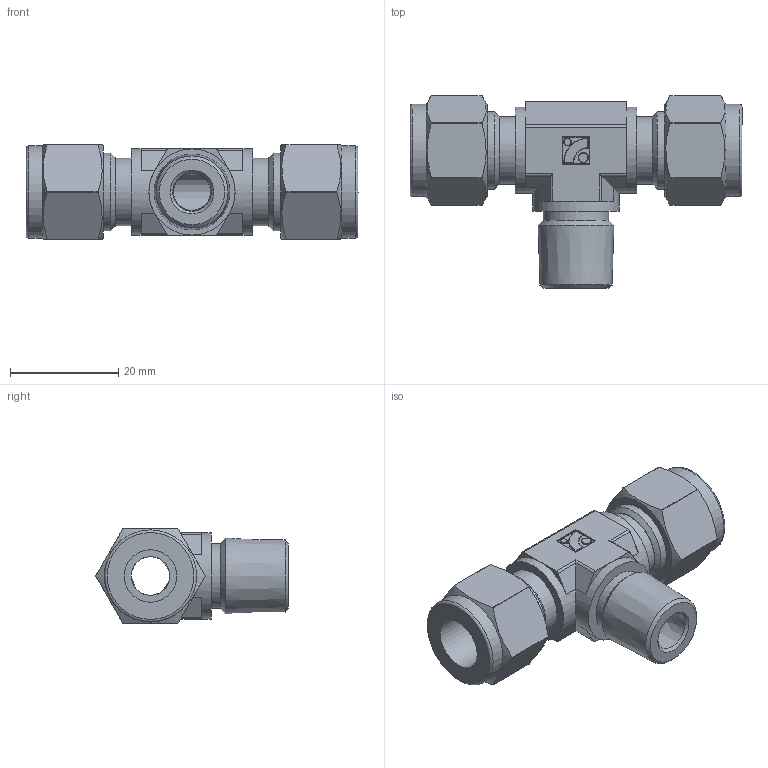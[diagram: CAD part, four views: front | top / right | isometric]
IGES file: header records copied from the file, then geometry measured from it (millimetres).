
Global section: file name: No Iges File Name specified; native system: Autodesk Inventor 2012; preprocessor: AutoDesk Inventor Iges Exporter R2012; author: 硅己绕,, ; organization: 11; date: 20150815.155155; units: millimetre
Bounding box: 61.22 x 35.48 x 17.5 mm (x, y, z)
Volume: 11842 mm3; surface area: 7031.8 mm2
Topology: 1 solids, 1 shells, 133 faces, 306 edges, 188 vertices
Faces by surface type: plane 60, cylinder 42, revolution 16, cone 9, torus 6
Full cylindrical faces by diameter (mm): 1.35 x1, 1.8 x1, 12 x1, 12.5 x2, 14.28 x2, 15.88 x3, 17 x2
